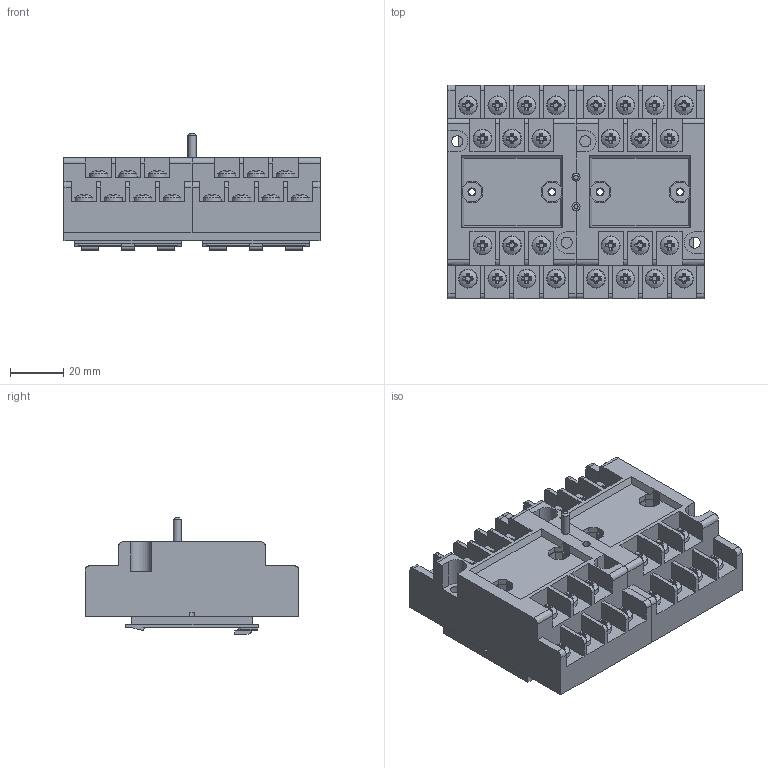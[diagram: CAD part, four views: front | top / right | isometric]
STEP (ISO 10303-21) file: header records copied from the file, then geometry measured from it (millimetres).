
FILE_DESCRIPTION((''),'2;1');
FILE_NAME('I:\TI\Bibliotheek\Inventor\Relais voeten\V93BR\V93BR.stp','2011-04-01T11:36:58',('a.vos'),(''),'Autodesk Inventor 2011','Autodesk Inventor 2011','');
FILE_SCHEMA(('AUTOMOTIVE_DESIGN { 1 0 10303 214 1 1 1 1 }'));
Length unit declared in the file: millimetre
Products named in the file (1): V93BR
Bounding box: 96 x 80 x 43.6 mm (x, y, z)
Volume: 177035.8 mm3; surface area: 40443.1 mm2
Topology: 1 solids, 35 shells, 1476 faces, 4069 edges, 2676 vertices
Faces by surface type: plane 917, cone 393, cylinder 94, sphere 36, bspline 36
Full cylindrical faces by diameter (mm): 1.5 x1, 2 x4, 2.459 x4, 2.85 x28, 3 x5, 3.2 x4, 4 x4, 4.2 x4, 4.5 x2
Entity records: 48266 total; most frequent: CARTESIAN_POINT 12033, ORIENTED_EDGE 7624, DIRECTION 7216, EDGE_CURVE 3812, AXIS2_PLACEMENT_3D 2591, VERTEX_POINT 2568, VECTOR 2034, LINE 2034
